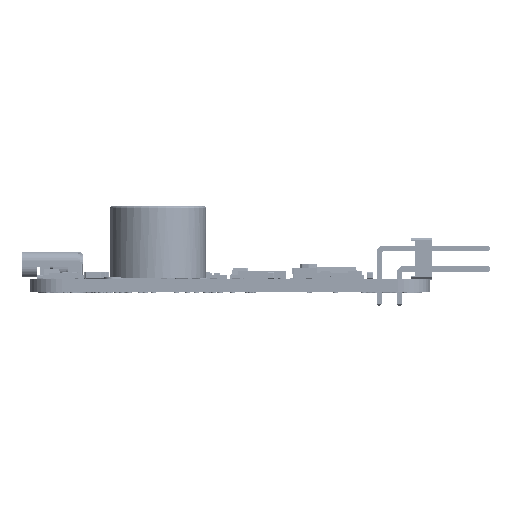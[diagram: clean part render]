
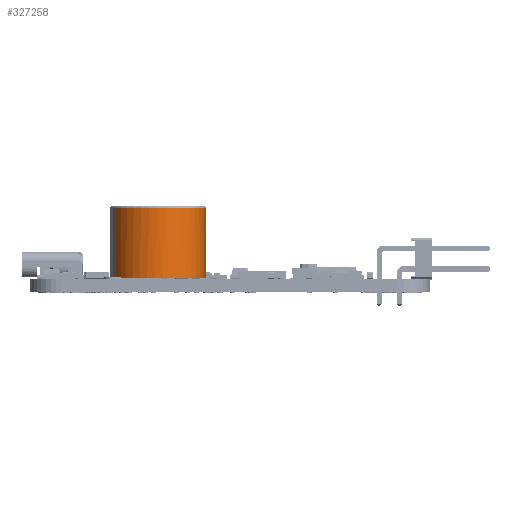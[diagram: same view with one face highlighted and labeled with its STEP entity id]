
A CAD part, top view. The second image highlights one B-rep face of the part: STEP entity #327258.
In plain terms, the highlighted cylindrical face has radius 6 mm (diameter 12 mm), a partial arc.
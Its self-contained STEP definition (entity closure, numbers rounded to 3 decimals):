
#46562 = EDGE_CURVE ( 'NONE', #539461, #539484, #510394, .T. ) ;
#46818 = EDGE_CURVE ( 'NONE', #539409, #539492, #510493, .T. ) ;
#47006 = EDGE_CURVE ( 'NONE', #539492, #539426, #510785, .T. ) ;
#47216 = EDGE_CURVE ( 'NONE', #539461, #539411, #510948, .T. ) ;
#47278 = EDGE_CURVE ( 'NONE', #539409, #539486, #510857, .T. ) ;
#47342 = EDGE_CURVE ( 'NONE', #539416, #539420, #528920, .T. ) ;
#47364 = EDGE_CURVE ( 'NONE', #539420, #539486, #529005, .T. ) ;
#47383 = EDGE_CURVE ( 'NONE', #539416, #539411, #529118, .T. ) ;
#47469 = EDGE_CURVE ( 'NONE', #539484, #539426, #528979, .T. ) ;
#104141 = EDGE_LOOP ( 'NONE', ( #524065, #524020, #523784, #524286, #524162, #524167, #524105, #523897, #523908 ) ) ;
#327258 = ADVANCED_FACE ( 'NONE', ( #352917 ), #352929, .T. ) ;
#339512 = AXIS2_PLACEMENT_3D ( 'NONE', #389127, #389120, #389225 ) ;
#352917 = FACE_OUTER_BOUND ( 'NONE', #104141, .T. ) ;
#352929 = CYLINDRICAL_SURFACE ( 'NONE', #339512, 6. ) ;
#389120 = DIRECTION ( 'NONE',  ( 0., -1., 0. ) ) ;
#389127 = CARTESIAN_POINT ( 'NONE',  ( 0., 9.05, 0. ) ) ;
#389225 = DIRECTION ( 'NONE',  ( 0., 0., -1. ) ) ;
#389488 = CARTESIAN_POINT ( 'NONE',  ( 1., 0.45, -5.916 ) ) ;
#389503 = CARTESIAN_POINT ( 'NONE',  ( 0., 8.8, 6. ) ) ;
#389522 = CARTESIAN_POINT ( 'NONE',  ( 1., 0.05, -5.916 ) ) ;
#389612 = CARTESIAN_POINT ( 'NONE',  ( 1., 0.2, -5.916 ) ) ;
#389617 = CARTESIAN_POINT ( 'NONE',  ( 1., 0.2, 5.916 ) ) ;
#389648 = CARTESIAN_POINT ( 'NONE',  ( 1., 0.05, 5.916 ) ) ;
#389656 = CARTESIAN_POINT ( 'NONE',  ( 0., 8.8, -6. ) ) ;
#389662 = CARTESIAN_POINT ( 'NONE',  ( 0., 0.45, -6. ) ) ;
#389669 = CARTESIAN_POINT ( 'NONE',  ( 0., 0.2, 6. ) ) ;
#480427 = AXIS2_PLACEMENT_3D ( 'NONE', #518566, #518577, #518617 ) ;
#480586 = AXIS2_PLACEMENT_3D ( 'NONE', #524014, #524106, #524110 ) ;
#480895 = AXIS2_PLACEMENT_3D ( 'NONE', #525176, #525083, #525088 ) ;
#480926 = AXIS2_PLACEMENT_3D ( 'NONE', #525296, #525245, #525337 ) ;
#510394 = CIRCLE ( 'NONE', #480427, 6. ) ;
#510493 = LINE ( 'NONE', #523321, #510606 ) ;
#510606 = VECTOR ( 'NONE', #523225, 1000. ) ;
#510785 = CIRCLE ( 'NONE', #480586, 6. ) ;
#510857 = CIRCLE ( 'NONE', #480895, 6. ) ;
#510940 = VECTOR ( 'NONE', #524930, 1000. ) ;
#510948 = LINE ( 'NONE', #524770, #510940 ) ;
#518566 = CARTESIAN_POINT ( 'NONE',  ( 0., 8.8, 0. ) ) ;
#518577 = DIRECTION ( 'NONE',  ( 0., -1., 0. ) ) ;
#518617 = DIRECTION ( 'NONE',  ( 0., 0., 1. ) ) ;
#523225 = DIRECTION ( 'NONE',  ( 0., 1., 0. ) ) ;
#523321 = CARTESIAN_POINT ( 'NONE',  ( 1., 9.05, 5.916 ) ) ;
#523784 = ORIENTED_EDGE ( 'NONE', *, *, #47006, .F. ) ;
#523897 = ORIENTED_EDGE ( 'NONE', *, *, #47383, .T. ) ;
#523908 = ORIENTED_EDGE ( 'NONE', *, *, #47216, .F. ) ;
#524014 = CARTESIAN_POINT ( 'NONE',  ( 0., 0.2, 0. ) ) ;
#524020 = ORIENTED_EDGE ( 'NONE', *, *, #47469, .T. ) ;
#524065 = ORIENTED_EDGE ( 'NONE', *, *, #46562, .T. ) ;
#524105 = ORIENTED_EDGE ( 'NONE', *, *, #47342, .F. ) ;
#524106 = DIRECTION ( 'NONE',  ( 0., -1., 0. ) ) ;
#524110 = DIRECTION ( 'NONE',  ( 0., 0., -1. ) ) ;
#524162 = ORIENTED_EDGE ( 'NONE', *, *, #47278, .T. ) ;
#524167 = ORIENTED_EDGE ( 'NONE', *, *, #47364, .F. ) ;
#524286 = ORIENTED_EDGE ( 'NONE', *, *, #46818, .F. ) ;
#524770 = CARTESIAN_POINT ( 'NONE',  ( 0., 9.05, -6. ) ) ;
#524930 = DIRECTION ( 'NONE',  ( 0., -1., 0. ) ) ;
#525083 = DIRECTION ( 'NONE',  ( 0., 1., 0. ) ) ;
#525088 = DIRECTION ( 'NONE',  ( 0., 0., 1. ) ) ;
#525176 = CARTESIAN_POINT ( 'NONE',  ( 0., 0.05, 0. ) ) ;
#525242 = DIRECTION ( 'NONE',  ( 0., -1., 0. ) ) ;
#525245 = DIRECTION ( 'NONE',  ( 0., 1., 0. ) ) ;
#525278 = CARTESIAN_POINT ( 'NONE',  ( 1., 9.05, -5.916 ) ) ;
#525296 = CARTESIAN_POINT ( 'NONE',  ( 0., 0.45, 0. ) ) ;
#525337 = DIRECTION ( 'NONE',  ( 0., 0., 1. ) ) ;
#525350 = DIRECTION ( 'NONE',  ( 0., -1., 0. ) ) ;
#525393 = CARTESIAN_POINT ( 'NONE',  ( 1., 9.05, -5.916 ) ) ;
#525482 = CARTESIAN_POINT ( 'NONE',  ( 0., 9.05, 6. ) ) ;
#525609 = DIRECTION ( 'NONE',  ( 0., -1., 0. ) ) ;
#528920 = LINE ( 'NONE', #525278, #529111 ) ;
#528979 = LINE ( 'NONE', #525482, #528986 ) ;
#528986 = VECTOR ( 'NONE', #525609, 1000. ) ;
#529005 = LINE ( 'NONE', #525393, #529154 ) ;
#529111 = VECTOR ( 'NONE', #525242, 1000. ) ;
#529118 = CIRCLE ( 'NONE', #480926, 6. ) ;
#529154 = VECTOR ( 'NONE', #525350, 1000. ) ;
#539409 = VERTEX_POINT ( 'NONE', #389648 ) ;
#539411 = VERTEX_POINT ( 'NONE', #389662 ) ;
#539416 = VERTEX_POINT ( 'NONE', #389488 ) ;
#539420 = VERTEX_POINT ( 'NONE', #389612 ) ;
#539426 = VERTEX_POINT ( 'NONE', #389669 ) ;
#539461 = VERTEX_POINT ( 'NONE', #389656 ) ;
#539484 = VERTEX_POINT ( 'NONE', #389503 ) ;
#539486 = VERTEX_POINT ( 'NONE', #389522 ) ;
#539492 = VERTEX_POINT ( 'NONE', #389617 ) ;
